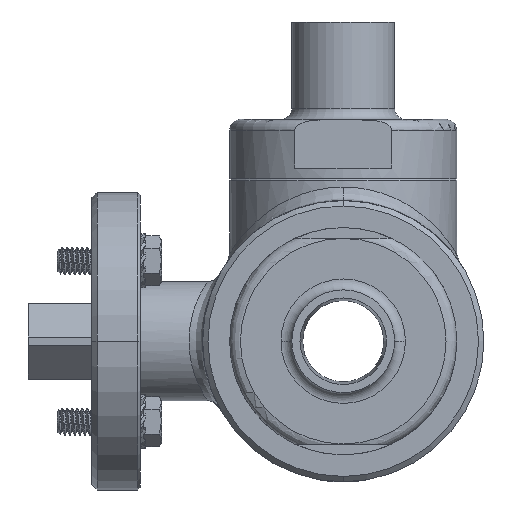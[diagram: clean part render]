
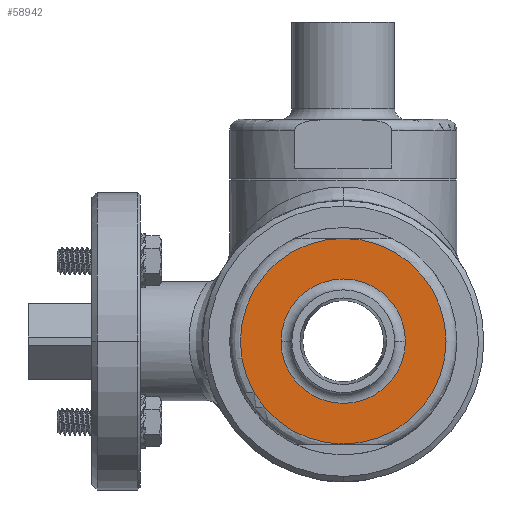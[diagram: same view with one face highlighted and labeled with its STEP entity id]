
A CAD part, left-side view. The second image highlights one B-rep face of the part: STEP entity #58942.
In plain terms, the highlighted planar face has unit normal (-1, 0, 0).
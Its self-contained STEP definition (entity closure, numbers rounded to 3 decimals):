
#30720=CARTESIAN_POINT('',(-41.,0.,0.));
#30721=DIRECTION('',(1.,0.,0.));
#30722=DIRECTION('',(0.,1.,0.));
#30723=AXIS2_PLACEMENT_3D('',#30720,#30721,#30722);
#30752=CARTESIAN_POINT('',(-41.,0.,0.));
#30753=DIRECTION('',(-1.,0.,0.));
#30754=DIRECTION('',(0.,1.,0.));
#30755=AXIS2_PLACEMENT_3D('',#30752,#30753,#30754);
#30768=CARTESIAN_POINT('',(-41.,0.,0.));
#30769=DIRECTION('',(-1.,0.,0.));
#30770=DIRECTION('',(0.,0.,1.));
#30771=AXIS2_PLACEMENT_3D('',#30768,#30769,#30770);
#30794=CARTESIAN_POINT('',(-41.,0.,-19.));
#30935=CARTESIAN_POINT('',(-41.,0.,0.));
#30936=DIRECTION('',(-1.,0.,0.));
#30937=DIRECTION('',(0.,0.,-1.));
#30938=AXIS2_PLACEMENT_3D('',#30935,#30936,#30937);
#30961=CARTESIAN_POINT('',(-41.,0.,19.));
#35322=VERTEX_POINT('',#30794);
#35323=VERTEX_POINT('',#30961);
#35328=CARTESIAN_POINT('',(-41.,11.5,0.));
#35329=CARTESIAN_POINT('',(-41.,-11.5,0.));
#35330=VERTEX_POINT('',#35328);
#35331=VERTEX_POINT('',#35329);
#58926=CARTESIAN_POINT('',(-41.,0.,0.));
#58927=DIRECTION('',(-1.,0.,0.));
#58928=DIRECTION('',(0.,-1.,0.));
#58929=AXIS2_PLACEMENT_3D('',#58926,#58927,#58928);
#58930=PLANE('',#58929);
#58932=ORIENTED_EDGE('',*,*,#58931,.F.);
#58934=ORIENTED_EDGE('',*,*,#58933,.F.);
#58935=EDGE_LOOP('',(#58932,#58934));
#58936=FACE_OUTER_BOUND('',#58935,.F.);
#58937=ORIENTED_EDGE('',*,*,#58916,.F.);
#58939=ORIENTED_EDGE('',*,*,#58938,.T.);
#58940=EDGE_LOOP('',(#58937,#58939));
#58941=FACE_BOUND('',#58940,.F.);
#58942=ADVANCED_FACE('',(#58936,#58941),#58930,.T.);
#30724=CIRCLE('',#30723,11.5);
#30756=CIRCLE('',#30755,11.5);
#30772=CIRCLE('',#30771,19.);
#30939=CIRCLE('',#30938,19.);
#58916=EDGE_CURVE('',#35330,#35331,#30724,.T.);
#58931=EDGE_CURVE('',#35323,#35322,#30772,.T.);
#58933=EDGE_CURVE('',#35322,#35323,#30939,.T.);
#58938=EDGE_CURVE('',#35330,#35331,#30756,.T.);
